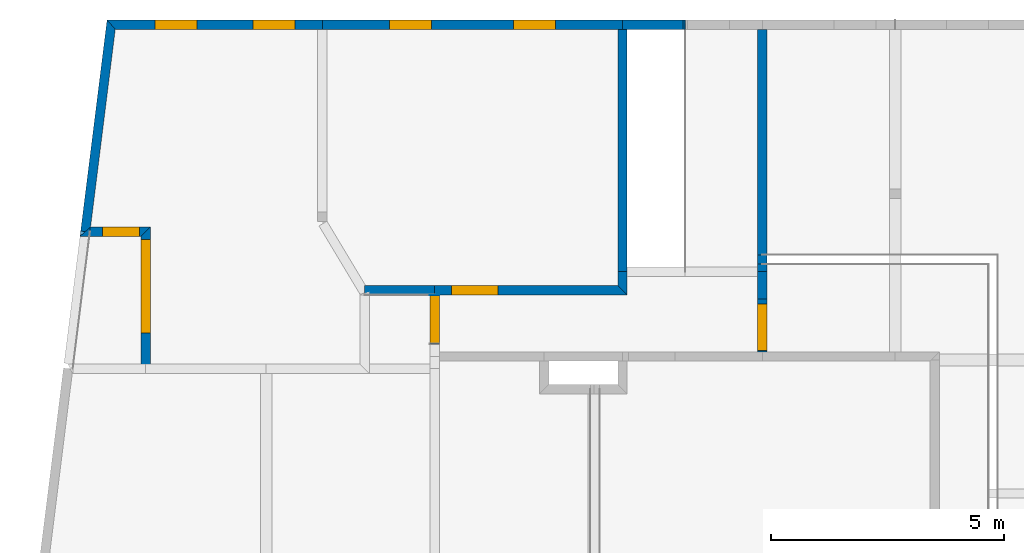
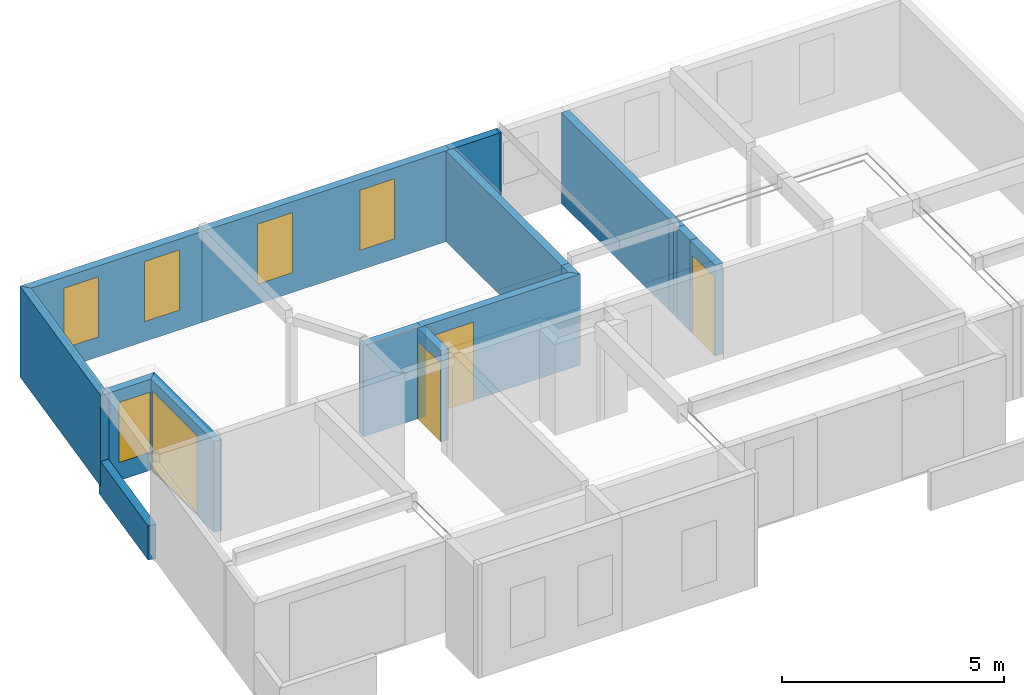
# One storey, part 6 of 8: 20 walls, 6 windows, 3 doors, 9 openings.
"""IFC2X3 building model written with IfcOpenShell, lengths in metres."""

from ifc_helpers import new_model, si_unit, direction, frame, origin_with_axes, origin_2d, place, context, subcontext, project, spatial, polyline, rectangle, outline, extrude, material, layer, layer_set, layer_usage, type_object, element, fill, save


model = new_model("IFC2X3")

# Units and contexts
model_context = context("Model", 3, precision=0.0001, world=origin_with_axes(), true_north=direction((0.0, 1.0)))
plan_context = context("Plan", 2, precision=0.0001, world=origin_with_axes(), true_north=direction((0.0, 1.0)))
body_context = subcontext(model_context, "Body", "Model", "MODEL_VIEW")
ifc_project = project(units=[si_unit("MASSUNIT", "GRAM", prefix="KILO"), si_unit("AREAUNIT", "SQUARE_METRE"), si_unit("LENGTHUNIT", "METRE"), si_unit("VOLUMEUNIT", "CUBIC_METRE")], contexts=[plan_context, model_context])

# Site, building, storey
site_placement = place(None, origin_with_axes())
site = spatial("IfcSite", under=ifc_project, at=site_placement, Name="$", CompositionType="ELEMENT")
building_placement = place(site_placement, origin_with_axes())
building = spatial("IfcBuilding", under=site, at=building_placement, Name="Classeur ENS Ensemble", CompositionType="ELEMENT")
storey_placement = place(building_placement, frame((-20.30778888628, -1.812671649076, 3.3), z_axis=(0.0, 0.0, 1.0), x_axis=(1.0, 0.0, 0.0)))
storey = spatial("IfcBuildingStorey", under=building, at=storey_placement, Name="002 R+1", CompositionType="ELEMENT", Elevation=3.3)

# Wall, openings, windows
ifc_material_1 = material(Name="mur BBM 20 cm")
ifc_layer_1 = layer(ifc_material_1, 0.2000000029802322)
ifc_layer_set_1 = layer_set([ifc_layer_1], Name="mur BBM 20 cm+")
ifc_layer_usage_1 = layer_usage(ifc_layer_set_1, "AXIS2", "POSITIVE", -0.1000000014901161)
wall_type = type_object("IfcWallType", PredefinedType="STANDARD")
wall_1_placement = place(storey_placement, frame((20.41380675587, 1.692674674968, 0.0), z_axis=(0.0, 0.0, 1.0), x_axis=(1.0, 0.0, 0.0)))
wall_1 = element("IfcWall", 1, at=wall_1_placement, inside=storey, type_object=wall_type, material=ifc_layer_usage_1, Name="mur BBM 20 cm", context=body_context, shape_type="SweptSolid", held_by="IfcProductRepresentation", body=[
    extrude(outline(polyline([(-0.08826448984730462, 0.1000000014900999), (-0.08826448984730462, 0.1000000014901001), (-0.08826448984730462, 0.1000000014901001), (4.529589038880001, 0.1000000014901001), (4.529589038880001, 0.1000000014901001), (4.529589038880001, 0.1000000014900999), (4.529589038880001, -0.1000000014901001), (4.529589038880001, -0.1000000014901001), (4.529589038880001, -0.1000000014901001), (0.08826448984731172, -0.1000000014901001), (0.08826448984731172, -0.1000000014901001), (0.08826448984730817, -0.1000000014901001), (-0.08826448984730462, 0.1000000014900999)])), origin_with_axes(), (0.0, 0.0, 1.0), 2.5),
])
opening_1_placement = place(wall_1_placement, frame((1.390263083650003, 0.1000000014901, 0.5500000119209), z_axis=(0.0, 0.0, 1.0), x_axis=(1.0, 0.0, 0.0)))
opening_1 = element("IfcOpeningElement", 2, at=opening_1_placement, cuts=wall_1, Name="BL 90 x 165", context=body_context, shape_type="SweptSolid", held_by="IfcProductRepresentation", body=[
    extrude(rectangle(XDim=0.8999999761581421, YDim=1.649999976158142, at=origin_2d()), frame((0.0, 0.0, 0.824999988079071), z_axis=(0.0, -1.0, 0.0), x_axis=(1.0, 0.0, 0.0)), (0.0, 0.0, 1.0), 0.2000000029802),
])
opening_2_placement = place(wall_1_placement, frame((3.488735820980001, 0.1000000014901, 0.5500000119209), z_axis=(0.0, 0.0, 1.0), x_axis=(1.0, 0.0, 0.0)))
opening_2 = element("IfcOpeningElement", 3, at=opening_2_placement, cuts=wall_1, Name="BL 90 x 165", context=body_context, shape_type="SweptSolid", held_by="IfcProductRepresentation", body=[
    extrude(rectangle(XDim=0.8999999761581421, YDim=1.649999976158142, at=origin_2d()), frame((0.0, 0.0, 0.824999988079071), z_axis=(0.0, -1.0, 0.0), x_axis=(1.0, 0.0, 0.0)), (0.0, 0.0, 1.0), 0.2000000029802),
])
window_1_placement = place(opening_1_placement, origin_with_axes())
window_1 = element("IfcWindow", 4, at=window_1_placement, inside=storey, Name="BL 90 x 165", OverallHeight=1.649999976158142, OverallWidth=0.8999999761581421, context=body_context, shape_type="SweptSolid", held_by="IfcProductRepresentation", body=[
    extrude(rectangle(XDim=0.8999999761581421, YDim=1.649999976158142, at=origin_2d()), frame((0.0, 0.0, 0.824999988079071), z_axis=(0.0, -1.0, 0.0), x_axis=(1.0, 0.0, 0.0)), (0.0, 0.0, 1.0), 0.2000000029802),
])
fill(opening_1, window_1)
window_2_placement = place(opening_2_placement, origin_with_axes())
window_2 = element("IfcWindow", 5, at=window_2_placement, inside=storey, Name="BL 90 x 165", OverallHeight=1.649999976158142, OverallWidth=0.8999999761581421, context=body_context, shape_type="SweptSolid", held_by="IfcProductRepresentation", body=[
    extrude(rectangle(XDim=0.8999999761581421, YDim=1.649999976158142, at=origin_2d()), frame((0.0, 0.0, 0.824999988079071), z_axis=(0.0, -1.0, 0.0), x_axis=(1.0, 0.0, 0.0)), (0.0, 0.0, 1.0), 0.2000000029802),
])
fill(opening_2, window_2)

# Wall, opening, door
ifc_material_2 = material(Name="voile BA 20 cm")
ifc_layer_2 = layer(ifc_material_2, 0.2000000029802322)
ifc_layer_set_2 = layer_set([ifc_layer_2], Name="voile BA 20 cm+")
ifc_layer_usage_2 = layer_usage(ifc_layer_set_2, "AXIS2", "POSITIVE", -0.1000000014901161)
wall_2_placement = place(storey_placement, frame((34.38339579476, -5.427325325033, 0.0), z_axis=(0.0, 0.0, 1.0), x_axis=(0.0, 1.0, 0.0)))
wall_2 = element("IfcWall", 6, at=wall_2_placement, inside=storey, type_object=wall_type, material=ifc_layer_usage_2, Name="voile BA 20 cm", context=body_context, shape_type="SweptSolid", held_by="IfcProductRepresentation", body=[
    extrude(outline(polyline([(0.1000000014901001, 0.1000000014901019), (0.1000000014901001, 0.1000000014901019), (0.1000000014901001, 0.1000000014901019), (1.236187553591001, 0.1000000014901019), (1.236187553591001, 0.1000000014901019), (1.236187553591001, 0.1000000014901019), (1.236187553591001, -0.1000000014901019), (1.236187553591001, -0.1000000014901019), (1.236187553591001, -0.1000000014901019), (0.1000000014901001, -0.1000000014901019), (0.1000000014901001, -0.1000000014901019), (0.1000000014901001, -0.1000000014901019), (0.1000000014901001, 0.1000000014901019)])), origin_with_axes(), (0.0, 0.0, 1.0), 2.5),
])
opening_3_placement = place(wall_2_placement, frame((0.6252548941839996, 0.1000000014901, 0.0), z_axis=(0.0, 0.0, 1.0), x_axis=(1.0, 0.0, 0.0)))
opening_3 = element("IfcOpeningElement", 7, at=opening_3_placement, cuts=wall_2, Name="PE 93 x 215", context=body_context, shape_type="SweptSolid", held_by="IfcProductRepresentation", body=[
    extrude(rectangle(XDim=1.0, YDim=2.150000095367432, at=origin_2d()), frame((0.0, 0.0, 1.075000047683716), z_axis=(0.0, -1.0, 0.0), x_axis=(1.0, 0.0, 0.0)), (0.0, 0.0, 1.0), 0.2000000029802),
])
door_1_placement = place(opening_3_placement, origin_with_axes())
door_1 = element("IfcDoor", 8, at=door_1_placement, inside=storey, Name="PE 93 x 215", OverallHeight=2.150000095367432, OverallWidth=1.0, context=body_context, shape_type="SweptSolid", held_by="IfcProductRepresentation", body=[
    extrude(rectangle(XDim=1.0, YDim=2.150000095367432, at=origin_2d()), frame((0.0, 0.0, 1.075000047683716), z_axis=(0.0, -1.0, 0.0), x_axis=(1.0, 0.0, 0.0)), (0.0, 0.0, 1.0), 0.2000000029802),
])
fill(opening_3, door_1)

# Walls
ifc_material_3 = material(Name="mur BBM 20 cm")
ifc_layer_3 = layer(ifc_material_3, 0.2000000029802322)
ifc_layer_set_3 = layer_set([ifc_layer_3], Name="mur BBM 20 cm+")
ifc_layer_usage_3 = layer_usage(ifc_layer_set_3, "AXIS2", "POSITIVE", -0.1000000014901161)
wall_3_placement = place(storey_placement, frame((31.38339579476, 1.692674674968, 0.0), z_axis=(0.0, 0.0, 1.0), x_axis=(1.0, 0.0, 0.0)))
element("IfcWall", 9, at=wall_3_placement, inside=storey, type_object=wall_type, material=ifc_layer_usage_3, Name="mur BBM 20 cm", context=body_context, shape_type="SweptSolid", held_by="IfcProductRepresentation", body=[
    extrude(outline(polyline([(0.0, 0.1000000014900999), (0.0, 0.1000000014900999), (0.0, 0.1000000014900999), (1.29999999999, 0.1000000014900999), (1.29999999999, 0.1000000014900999), (1.29999999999, 0.1000000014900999), (1.29999999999, -0.1000000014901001), (1.29999999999, -0.1000000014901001), (1.29999999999, -0.1000000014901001), (0.1000000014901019, -0.1000000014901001), (0.1000000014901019, -0.1000000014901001), (0.0, -0.1000000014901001), (0.0, 0.1000000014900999)])), origin_with_axes(), (0.0, 0.0, 1.0), 2.5),
])
ifc_material_4 = material(Name="voile BA 20 cm")
ifc_layer_4 = layer(ifc_material_4, 0.2000000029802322)
ifc_layer_set_4 = layer_set([ifc_layer_4], Name="voile BA 20 cm+")
ifc_layer_usage_4 = layer_usage(ifc_layer_set_4, "AXIS2", "POSITIVE", -0.1000000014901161)
wall_4_placement = place(storey_placement, frame((34.38339579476, -4.191137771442, 0.0), z_axis=(0.0, 0.0, 1.0), x_axis=(0.0, 0.9999999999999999, 0.0)))
element("IfcWall", 10, at=wall_4_placement, inside=storey, type_object=wall_type, material=ifc_layer_usage_4, Name="voile BA 20 cm", context=body_context, shape_type="SweptSolid", held_by="IfcProductRepresentation", body=[
    extrude(outline(polyline([(0.0, 0.1000000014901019), (0.0, 0.1000000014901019), (0.0, 0.1000000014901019), (0.5838124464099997, 0.1000000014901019), (0.5838124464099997, 0.1000000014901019), (0.5838124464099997, 0.1000000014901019), (0.5838124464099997, -0.1000000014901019), (0.5838124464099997, -0.1000000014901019), (0.5838124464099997, -0.1000000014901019), (0.0, -0.1000000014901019), (0.0, -0.1000000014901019), (0.0, -0.1000000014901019), (0.0, 0.1000000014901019)])), origin_with_axes(), (0.0, 0.0, 1.0), 2.5),
])
ifc_material_5 = material(Name="mur BBM 20 cm")
ifc_layer_5 = layer(ifc_material_5, 0.2000000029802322)
ifc_layer_set_5 = layer_set([ifc_layer_5], Name="mur BBM 20 cm+")
ifc_layer_usage_5 = layer_usage(ifc_layer_set_5, "AXIS2", "POSITIVE", -0.1000000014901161)
wall_5_placement = place(storey_placement, frame((32.68339579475, 1.692674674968, 0.0), z_axis=(0.0, 0.0, 1.0), x_axis=(1.0, 0.0, 0.0)))
element("IfcWall", 11, at=wall_5_placement, inside=storey, type_object=wall_type, material=ifc_layer_usage_5, Name="mur BBM 20 cm", context=body_context, shape_type="SweptSolid", held_by="IfcProductRepresentation", body=[
    extrude(outline(polyline([(0.0, 0.1000000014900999), (0.0, 0.1000000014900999), (0.0, 0.1000000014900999), (0.04257326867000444, 0.1000000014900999), (0.04257326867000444, 0.1000000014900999), (0.04257326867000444, 0.1000000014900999), (0.04257326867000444, -0.1000000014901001), (0.04257326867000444, -0.1000000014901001), (0.04257326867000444, -0.1000000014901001), (0.0, -0.1000000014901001), (0.0, -0.1000000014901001), (0.0, -0.1000000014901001), (0.0, 0.1000000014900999)])), origin_with_axes(), (0.0, 0.0, 1.0), 2.5),
])
ifc_material_6 = material(Name="voile BA 20 cm")
ifc_layer_6 = layer(ifc_material_6, 0.2000000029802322)
ifc_layer_set_6 = layer_set([ifc_layer_6], Name="voile BA 20 cm+")
ifc_layer_usage_6 = layer_usage(ifc_layer_set_6, "AXIS2", "POSITIVE", -0.1000000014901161)
wall_6_placement = place(storey_placement, frame((25.85115831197, -4.007325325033, 0.0), z_axis=(0.0, 0.0, 1.0), x_axis=(1.0, 0.0, 0.0)))
element("IfcWall", 12, at=wall_6_placement, inside=storey, type_object=wall_type, material=ifc_layer_usage_6, Name="voile BA 20 cm", context=body_context, shape_type="SweptSolid", held_by="IfcProductRepresentation", body=[
    extrude(outline(polyline([(0.0, 0.1000000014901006), (0.0, 0.1000000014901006), (0.0, 0.1000000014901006), (1.50223748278, 0.1000000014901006), (1.50223748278, 0.1000000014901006), (1.50223748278, 0.1000000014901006), (1.50223748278, -0.1000000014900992), (1.402237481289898, -0.1000000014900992), (1.402237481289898, -0.1000000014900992), (0.0, -0.1000000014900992), (0.0, -0.1000000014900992), (0.0, -0.1000000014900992), (0.0, 0.1000000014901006)])), origin_with_axes(), (0.0, 0.0, 1.0), 2.5),
])
ifc_material_7 = material(Name="voile BA 20 cm")
ifc_layer_7 = layer(ifc_material_7, 0.2000000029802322)
ifc_layer_set_7 = layer_set([ifc_layer_7], Name="voile BA 20 cm+")
ifc_layer_usage_7 = layer_usage(ifc_layer_set_7, "AXIS2", "POSITIVE", -0.1000000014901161)
wall_7_placement = place(storey_placement, frame((31.38339579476, -4.007325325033, 0.0), z_axis=(0.0, 0.0, 1.0), x_axis=(0.0, 1.0, 0.0)))
element("IfcWall", 13, at=wall_7_placement, inside=storey, type_object=wall_type, material=ifc_layer_usage_7, Name="voile BA 20 cm", context=body_context, shape_type="SweptSolid", held_by="IfcProductRepresentation", body=[
    extrude(outline(polyline([(0.1000000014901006, 0.1000000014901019), (0.1000000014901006, 0.1000000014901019), (0.1000000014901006, 0.1000000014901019), (0.4000000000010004, 0.1000000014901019), (0.4000000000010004, 0.1000000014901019), (0.4000000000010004, 0.1000000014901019), (0.4000000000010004, -0.1000000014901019), (0.4000000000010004, -0.1000000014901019), (0.4000000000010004, -0.1000000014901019), (-0.1000000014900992, -0.1000000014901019), (-0.1000000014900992, -0.1000000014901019), (-0.1000000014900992, -0.1000000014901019), (0.1000000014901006, 0.1000000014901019)])), origin_with_axes(), (0.0, 0.0, 1.0), 2.5),
])

# Wall, opening, door
ifc_material_8 = material(Name="voile BA 20 cm")
ifc_layer_8 = layer(ifc_material_8, 0.2000000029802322)
ifc_layer_set_8 = layer_set([ifc_layer_8], Name="voile BA 20 cm+")
ifc_layer_usage_8 = layer_usage(ifc_layer_set_8, "AXIS2", "POSITIVE", -0.1000000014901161)
wall_8_placement = place(storey_placement, frame((27.35339579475, -5.157325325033, 0.0), z_axis=(0.0, 0.0, 1.0), x_axis=(0.0, 1.0, 0.0)))
wall_8 = element("IfcWall", 14, at=wall_8_placement, inside=storey, type_object=wall_type, material=ifc_layer_usage_8, Name="voile BA 20 cm", context=body_context, shape_type="SweptSolid", held_by="IfcProductRepresentation", body=[
    extrude(outline(polyline([(0.0, 0.1000000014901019), (0.0, 0.1000000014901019), (0.0, 0.1000000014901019), (1.050000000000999, 0.1000000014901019), (1.050000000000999, 0.1000000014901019), (1.050000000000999, 0.1000000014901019), (1.050000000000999, -0.1000000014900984), (1.050000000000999, -0.1000000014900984), (1.050000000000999, -0.1000000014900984), (0.0, -0.1000000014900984), (0.0, -0.1000000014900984), (0.0, -0.1000000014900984), (0.0, 0.1000000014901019)])), origin_with_axes(), (0.0, 0.0, 1.0), 2.5),
])
opening_4_placement = place(wall_8_placement, frame((0.5244508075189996, 0.1000000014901, 0.0), z_axis=(0.0, 0.0, 1.0), x_axis=(1.0, 0.0, 0.0)))
opening_4 = element("IfcOpeningElement", 15, at=opening_4_placement, cuts=wall_8, Name="PE 93 x 215", context=body_context, shape_type="SweptSolid", held_by="IfcProductRepresentation", body=[
    extrude(rectangle(XDim=1.0, YDim=2.150000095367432, at=origin_2d()), frame((0.0, 0.0, 1.075000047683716), z_axis=(0.0, -1.0, 0.0), x_axis=(1.0, 0.0, 0.0)), (0.0, 0.0, 1.0), 0.2000000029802),
])
door_2_placement = place(opening_4_placement, origin_with_axes())
door_2 = element("IfcDoor", 16, at=door_2_placement, inside=storey, Name="PE 93 x 215", OverallHeight=2.150000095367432, OverallWidth=1.0, context=body_context, shape_type="SweptSolid", held_by="IfcProductRepresentation", body=[
    extrude(rectangle(XDim=1.0, YDim=2.150000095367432, at=origin_2d()), frame((0.0, 0.0, 1.075000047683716), z_axis=(0.0, -1.0, 0.0), x_axis=(1.0, 0.0, 0.0)), (0.0, 0.0, 1.0), 0.2000000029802),
])
fill(opening_4, door_2)

# Walls
ifc_material_9 = material(Name="mur BBM 20 cm")
ifc_layer_9 = layer(ifc_material_9, 0.2000000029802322)
ifc_layer_set_9 = layer_set([ifc_layer_9], Name="mur BBM 20 cm+")
ifc_layer_usage_9 = layer_usage(ifc_layer_set_9, "AXIS2", "POSITIVE", -0.1000000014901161)
wall_9_placement = place(storey_placement, frame((19.85811059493, -2.747325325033, 0.0), z_axis=(0.0, 0.0, 1.0), x_axis=(1.0, 0.0, 0.0)))
element("IfcWall", 17, at=wall_9_placement, inside=storey, type_object=wall_type, material=ifc_layer_usage_9, Name="mur BBM 20 cm", context=body_context, shape_type="SweptSolid", held_by="IfcProductRepresentation", body=[
    extrude(outline(polyline([(0.1132958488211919, 0.1000000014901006), (0.1132958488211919, 0.100000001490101), (0.1132958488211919, 0.100000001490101), (0.1007801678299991, 0.1000000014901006), (0.1007801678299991, 0.1000000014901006), (0.1007801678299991, 0.1000000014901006), (0.1007801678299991, -0.1000000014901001), (0.1007801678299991, -0.1000000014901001), (0.1007801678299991, -0.1000000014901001), (-0.1132958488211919, -0.1000000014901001), (-0.1132958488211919, -0.1000000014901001), (-0.1132958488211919, -0.1000000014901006), (0.1132958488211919, 0.1000000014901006)])), origin_with_axes(), (0.0, 0.0, 1.0), 2.5),
])
ifc_material_10 = material(Name="mur BBM 20 cm")
ifc_layer_10 = layer(ifc_material_10, 0.2000000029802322)
ifc_layer_set_10 = layer_set([ifc_layer_10], Name="mur BBM 20 cm+")
ifc_layer_usage_10 = layer_usage(ifc_layer_set_10, "AXIS2", "POSITIVE", -0.1000000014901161)
wall_10_placement = place(storey_placement, frame((19.85811059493, -2.747325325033, 0.0), z_axis=(0.0, 0.0, 1.0), x_axis=(0.1241879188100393, 0.9922587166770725, 0.0)))
element("IfcWall", 18, at=wall_10_placement, inside=storey, type_object=wall_type, material=ifc_layer_usage_10, Name="mur BBM 20 cm", context=body_context, shape_type="SweptSolid", held_by="IfcProductRepresentation", body=[
    extrude(outline(polyline([(-0.1132958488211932, 0.1000000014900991), (-0.1132958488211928, 0.1000000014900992), (-0.1132958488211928, 0.1000000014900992), (4.562903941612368, 0.1000000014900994), (4.562903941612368, 0.1000000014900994), (4.562903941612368, 0.1000000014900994), (4.386374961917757, -0.1000000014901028), (4.386374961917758, -0.1000000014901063), (4.386374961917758, -0.1000000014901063), (0.1132958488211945, -0.100000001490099), (0.1132958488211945, -0.100000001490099), (0.1132958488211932, -0.1000000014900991), (-0.1132958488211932, 0.1000000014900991)])), origin_with_axes(), (0.0, 0.0, 1.0), 2.5),
])

# Wall, opening, window
ifc_material_11 = material(Name="mur BBM 20 cm")
ifc_layer_11 = layer(ifc_material_11, 0.2000000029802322)
ifc_layer_set_11 = layer_set([ifc_layer_11], Name="mur BBM 20 cm+")
ifc_layer_usage_11 = layer_usage(ifc_layer_set_11, "AXIS2", "POSITIVE", -0.1000000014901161)
wall_11_placement = place(storey_placement, frame((21.1533661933, -2.747325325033, 0.0), z_axis=(0.0, 0.0, 1.0), x_axis=(0.0002960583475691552, -0.9999999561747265, 0.0)))
wall_11 = element("IfcWall", 19, at=wall_11_placement, inside=storey, type_object=wall_type, material=ifc_layer_usage_11, Name="mur BBM 20 cm", context=body_context, shape_type="SweptSolid", held_by="IfcProductRepresentation", body=[
    extrude(outline(polyline([(-0.09997040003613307, 0.1000000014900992), (-0.09997040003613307, 0.1000000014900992), (-0.09997040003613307, 0.1000000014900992), (2.94000012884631, 0.1000000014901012), (2.94000012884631, 0.1000000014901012), (2.94000012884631, 0.1000000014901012), (2.94000012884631, -0.1000000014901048), (2.94000012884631, -0.1000000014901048), (2.94000012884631, -0.1000000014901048), (0.09997040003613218, -0.1000000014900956), (0.09997040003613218, -0.1000000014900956), (0.09997040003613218, -0.1000000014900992), (-0.09997040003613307, 0.1000000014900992)])), origin_with_axes(), (0.0, 0.0, 1.0), 2.5),
])
opening_5_placement = place(wall_11_placement, frame((1.16981173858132, 0.1000000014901, 0.05000000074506), z_axis=(0.0, 0.0, 1.0), x_axis=(1.0, 0.0, 0.0)))
opening_5 = element("IfcOpeningElement", 20, at=opening_5_placement, cuts=wall_11, Name="BL 200 x 215", context=body_context, shape_type="SweptSolid", held_by="IfcProductRepresentation", body=[
    extrude(rectangle(XDim=2.0, YDim=2.150000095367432, at=origin_2d()), frame((0.0, 0.0, 1.075000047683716), z_axis=(0.0, -1.0, 0.0), x_axis=(1.0, 0.0, 0.0)), (0.0, 0.0, 1.0), 0.2000000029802),
])
window_3_placement = place(opening_5_placement, origin_with_axes())
window_3 = element("IfcWindow", 21, at=window_3_placement, inside=storey, Name="BL 200 x 215", OverallHeight=2.150000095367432, OverallWidth=2.0, context=body_context, shape_type="SweptSolid", held_by="IfcProductRepresentation", body=[
    extrude(rectangle(XDim=2.0, YDim=2.150000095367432, at=origin_2d()), frame((0.0, 0.0, 1.075000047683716), z_axis=(0.0, -1.0, 0.0), x_axis=(1.0, 0.0, 0.0)), (0.0, 0.0, 1.0), 0.2000000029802),
])
fill(opening_5, window_3)

# Wall
ifc_material_12 = material(Name="mur BBM 20 cm")
ifc_layer_12 = layer(ifc_material_12, 0.2000000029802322)
ifc_layer_set_12 = layer_set([ifc_layer_12], Name="mur BBM 20 cm+")
ifc_layer_usage_12 = layer_usage(ifc_layer_set_12, "AXIS2", "POSITIVE", -0.1000000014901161)
wall_12_placement = place(storey_placement, frame((19.50361371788, -5.579747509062, -0.25), z_axis=(0.0, 0.0, 1.0), x_axis=(0.1242218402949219, 0.9922544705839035, 0.0)))
element("IfcWall", 22, at=wall_12_placement, inside=storey, type_object=wall_type, material=ifc_layer_usage_12, Name="mur BBM 20 cm", context=body_context, shape_type="SweptSolid", held_by="IfcProductRepresentation", body=[
    extrude(outline(polyline([(3.729655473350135e-16, 0.1000000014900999), (3.729655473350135e-16, 0.1000000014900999), (3.729655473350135e-16, 0.1000000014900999), (2.854532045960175, 0.1000000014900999), (2.854532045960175, 0.1000000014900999), (2.854532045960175, 0.1000000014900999), (2.854532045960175, -0.1000000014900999), (2.854532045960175, -0.1000000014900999), (2.854532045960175, -0.1000000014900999), (-3.729655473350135e-16, -0.1000000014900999), (-3.729655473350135e-16, -0.1000000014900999), (-3.729655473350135e-16, -0.1000000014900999), (3.729655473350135e-16, 0.1000000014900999)])), origin_with_axes(), (0.0, 0.0, 1.0), 0.9399999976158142),
])

# Wall, opening, window
ifc_material_13 = material(Name="mur BBM 20 cm")
ifc_layer_13 = layer(ifc_material_13, 0.2000000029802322)
ifc_layer_set_13 = layer_set([ifc_layer_13], Name="mur BBM 20 cm+")
ifc_layer_usage_13 = layer_usage(ifc_layer_set_13, "AXIS2", "POSITIVE", -0.1000000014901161)
wall_13_placement = place(storey_placement, frame((19.95889076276, -2.747325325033, 0.0), z_axis=(0.0, 0.0, 1.0), x_axis=(1.0, 0.0, 0.0)))
wall_13 = element("IfcWall", 23, at=wall_13_placement, inside=storey, type_object=wall_type, material=ifc_layer_usage_13, Name="mur BBM 20 cm", context=body_context, shape_type="SweptSolid", held_by="IfcProductRepresentation", body=[
    extrude(outline(polyline([(0.0, 0.1000000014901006), (0.0, 0.1000000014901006), (0.0, 0.1000000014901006), (1.294445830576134, 0.100000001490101), (1.294445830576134, 0.100000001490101), (1.294445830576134, 0.100000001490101), (1.094505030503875, -0.1000000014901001), (1.094505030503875, -0.1000000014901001), (1.094505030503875, -0.1000000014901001), (0.0, -0.1000000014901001), (0.0, -0.1000000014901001), (0.0, -0.1000000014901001), (0.0, 0.1000000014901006)])), origin_with_axes(), (0.0, 0.0, 1.0), 2.5),
])
opening_6_placement = place(wall_13_placement, frame((0.6643855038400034, 0.1000000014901, 0.5), z_axis=(0.0, 0.0, 1.0), x_axis=(1.0, 0.0, 0.0)))
opening_6 = element("IfcOpeningElement", 24, at=opening_6_placement, cuts=wall_13, Name="BL 80 x 165", context=body_context, shape_type="SweptSolid", held_by="IfcProductRepresentation", body=[
    extrude(rectangle(XDim=0.800000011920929, YDim=1.649999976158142, at=origin_2d()), frame((0.0, 0.0, 0.824999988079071), z_axis=(0.0, -1.0, 0.0), x_axis=(1.0, 0.0, 0.0)), (0.0, 0.0, 1.0), 0.2000000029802),
])
window_4_placement = place(opening_6_placement, origin_with_axes())
window_4 = element("IfcWindow", 25, at=window_4_placement, inside=storey, Name="BL 80 x 165", OverallHeight=1.649999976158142, OverallWidth=0.800000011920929, context=body_context, shape_type="SweptSolid", held_by="IfcProductRepresentation", body=[
    extrude(rectangle(XDim=0.800000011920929, YDim=1.649999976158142, at=origin_2d()), frame((0.0, 0.0, 0.824999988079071), z_axis=(0.0, -1.0, 0.0), x_axis=(1.0, 0.0, 0.0)), (0.0, 0.0, 1.0), 0.2000000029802),
])
fill(opening_6, window_4)

# Wall
ifc_material_14 = material(Name="voile BA 20 cm")
ifc_layer_14 = layer(ifc_material_14, 0.2000000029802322)
ifc_layer_set_14 = layer_set([ifc_layer_14], Name="voile BA 20 cm+")
ifc_layer_usage_14 = layer_usage(ifc_layer_set_14, "AXIS2", "POSITIVE", -0.1000000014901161)
wall_14_placement = place(storey_placement, frame((34.38339579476, -3.44736866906, 0.0), z_axis=(0.0, 0.0, 1.0), x_axis=(0.0, 1.0, 0.0)))
element("IfcWall", 26, at=wall_14_placement, inside=storey, type_object=wall_type, material=ifc_layer_usage_14, Name="voile BA 20 cm", context=body_context, shape_type="SweptSolid", held_by="IfcProductRepresentation", body=[
    extrude(outline(polyline([(0.0, 0.1000000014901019), (0.0, 0.1000000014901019), (0.0, 0.1000000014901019), (0.2000000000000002, 0.1000000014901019), (0.2000000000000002, 0.1000000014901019), (0.2000000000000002, 0.1000000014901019), (0.2000000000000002, -0.1000000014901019), (0.2000000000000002, -0.1000000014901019), (0.2000000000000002, -0.1000000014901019), (0.0, -0.1000000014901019), (0.0, -0.1000000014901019), (0.0, -0.1000000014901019), (0.0, 0.1000000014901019)])), origin_with_axes(), (0.0, 0.0, 1.0), 2.5),
])

# Wall, openings, windows
ifc_material_15 = material(Name="mur BBM 20 cm")
ifc_layer_15 = layer(ifc_material_15, 0.2000000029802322)
ifc_layer_set_15 = layer_set([ifc_layer_15], Name="mur BBM 20 cm+")
ifc_layer_usage_15 = layer_usage(ifc_layer_set_15, "AXIS2", "POSITIVE", -0.1000000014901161)
wall_15_placement = place(storey_placement, frame((24.94339579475, 1.692674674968, 0.0), z_axis=(0.0, 0.0, 1.0), x_axis=(0.9999999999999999, 0.0, 0.0)))
wall_15 = element("IfcWall", 27, at=wall_15_placement, inside=storey, type_object=wall_type, material=ifc_layer_usage_15, Name="mur BBM 20 cm", context=body_context, shape_type="SweptSolid", held_by="IfcProductRepresentation", body=[
    extrude(outline(polyline([(0.0, 0.1000000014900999), (0.0, 0.1000000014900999), (0.0, 0.1000000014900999), (6.44000000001, 0.1000000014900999), (6.44000000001, 0.1000000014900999), (6.44000000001, 0.1000000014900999), (6.44000000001, -0.1000000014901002), (6.339999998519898, -0.1000000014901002), (6.339999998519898, -0.1000000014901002), (0.0, -0.1000000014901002), (0.0, -0.1000000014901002), (0.0, -0.1000000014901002), (0.0, 0.1000000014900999)])), origin_with_axes(), (0.0, 0.0, 1.0), 2.5),
])
opening_7_placement = place(wall_15_placement, frame((1.896140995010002, 0.1000000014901, 0.5500000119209), z_axis=(0.0, 0.0, 1.0), x_axis=(1.0, 0.0, 0.0)))
opening_7 = element("IfcOpeningElement", 28, at=opening_7_placement, cuts=wall_15, Name="BL 90 x 165", context=body_context, shape_type="SweptSolid", held_by="IfcProductRepresentation", body=[
    extrude(rectangle(XDim=0.8999999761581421, YDim=1.649999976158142, at=origin_2d()), frame((0.0, 0.0, 0.824999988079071), z_axis=(0.0, -1.0, 0.0), x_axis=(1.0, 0.0, 0.0)), (0.0, 0.0, 1.0), 0.2000000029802),
])
opening_8_placement = place(wall_15_placement, frame((4.54856490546, 0.1000000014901, 0.5500000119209), z_axis=(0.0, 0.0, 1.0), x_axis=(1.0, 0.0, 0.0)))
opening_8 = element("IfcOpeningElement", 29, at=opening_8_placement, cuts=wall_15, Name="BL 90 x 165", context=body_context, shape_type="SweptSolid", held_by="IfcProductRepresentation", body=[
    extrude(rectangle(XDim=0.8999999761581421, YDim=1.649999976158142, at=origin_2d()), frame((0.0, 0.0, 0.824999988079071), z_axis=(0.0, -1.0, 0.0), x_axis=(1.0, 0.0, 0.0)), (0.0, 0.0, 1.0), 0.2000000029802),
])
window_5_placement = place(opening_7_placement, origin_with_axes())
window_5 = element("IfcWindow", 30, at=window_5_placement, inside=storey, Name="BL 90 x 165", OverallHeight=1.649999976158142, OverallWidth=0.8999999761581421, context=body_context, shape_type="SweptSolid", held_by="IfcProductRepresentation", body=[
    extrude(rectangle(XDim=0.8999999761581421, YDim=1.649999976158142, at=origin_2d()), frame((0.0, 0.0, 0.824999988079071), z_axis=(0.0, -1.0, 0.0), x_axis=(1.0, 0.0, 0.0)), (0.0, 0.0, 1.0), 0.2000000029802),
])
fill(opening_7, window_5)
window_6_placement = place(opening_8_placement, origin_with_axes())
window_6 = element("IfcWindow", 31, at=window_6_placement, inside=storey, Name="BL 90 x 165", OverallHeight=1.649999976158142, OverallWidth=0.8999999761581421, context=body_context, shape_type="SweptSolid", held_by="IfcProductRepresentation", body=[
    extrude(rectangle(XDim=0.8999999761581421, YDim=1.649999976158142, at=origin_2d()), frame((0.0, 0.0, 0.824999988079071), z_axis=(0.0, -1.0, 0.0), x_axis=(1.0, 0.0, 0.0)), (0.0, 0.0, 1.0), 0.2000000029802),
])
fill(opening_8, window_6)

# Walls
ifc_material_16 = material(Name="voile BA 20 cm")
ifc_layer_16 = layer(ifc_material_16, 0.2000000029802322)
ifc_layer_set_16 = layer_set([ifc_layer_16], Name="voile BA 20 cm+")
ifc_layer_usage_16 = layer_usage(ifc_layer_set_16, "AXIS2", "POSITIVE", -0.1000000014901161)
wall_16_placement = place(storey_placement, frame((34.38339579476, -3.24736866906, 0.0), z_axis=(0.0, 0.0, 1.0), x_axis=(0.0, 1.0, 0.0)))
element("IfcWall", 32, at=wall_16_placement, inside=storey, type_object=wall_type, material=ifc_layer_usage_16, Name="voile BA 20 cm", context=body_context, shape_type="SweptSolid", held_by="IfcProductRepresentation", body=[
    extrude(outline(polyline([(0.0, 0.1000000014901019), (0.0, 0.1000000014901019), (0.0, 0.1000000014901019), (4.8400433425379, 0.1000000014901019), (4.8400433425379, 0.1000000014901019), (4.8400433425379, 0.1000000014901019), (4.8400433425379, -0.1000000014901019), (4.8400433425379, -0.1000000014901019), (4.8400433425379, -0.1000000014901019), (0.0, -0.1000000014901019), (0.0, -0.1000000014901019), (0.0, -0.1000000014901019), (0.0, 0.1000000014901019)])), origin_with_axes(), (0.0, 0.0, 1.0), 2.5),
])
ifc_material_17 = material(Name="voile BA 20 cm")
ifc_layer_17 = layer(ifc_material_17, 0.2000000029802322)
ifc_layer_set_17 = layer_set([ifc_layer_17], Name="voile BA 20 cm+")
ifc_layer_usage_17 = layer_usage(ifc_layer_set_17, "AXIS2", "POSITIVE", -0.1000000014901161)
wall_17_placement = place(storey_placement, frame((31.38339579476, -3.607325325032, 0.0), z_axis=(0.0, 0.0, 1.0), x_axis=(0.0, 1.0, 0.0)))
element("IfcWall", 33, at=wall_17_placement, inside=storey, type_object=wall_type, material=ifc_layer_usage_17, Name="voile BA 20 cm", context=body_context, shape_type="SweptSolid", held_by="IfcProductRepresentation", body=[
    extrude(outline(polyline([(0.0, 0.1000000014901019), (0.0, 0.1000000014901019), (0.0, 0.1000000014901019), (5.1999999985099, 0.1000000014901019), (5.1999999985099, 0.1000000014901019), (5.1999999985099, 0.1000000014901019), (5.1999999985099, -0.1000000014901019), (5.1999999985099, -0.1000000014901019), (5.1999999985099, -0.1000000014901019), (0.0, -0.1000000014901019), (0.0, -0.1000000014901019), (0.0, -0.1000000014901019), (0.0, 0.1000000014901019)])), origin_with_axes(), (0.0, 0.0, 1.0), 2.5),
])
ifc_material_18 = material(Name="voile BA 20 cm")
ifc_layer_18 = layer(ifc_material_18, 0.2000000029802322)
ifc_layer_set_18 = layer_set([ifc_layer_18], Name="voile BA 20 cm+")
ifc_layer_usage_18 = layer_usage(ifc_layer_set_18, "AXIS2", "POSITIVE", -0.1000000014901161)
wall_18_placement = place(storey_placement, frame((34.38339579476, -3.607325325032, 0.0), z_axis=(0.0, 0.0, 1.0), x_axis=(0.0, 1.0, 0.0)))
element("IfcWall", 34, at=wall_18_placement, inside=storey, type_object=wall_type, material=ifc_layer_usage_18, Name="voile BA 20 cm", context=body_context, shape_type="SweptSolid", held_by="IfcProductRepresentation", body=[
    extrude(outline(polyline([(0.0, 0.1000000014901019), (0.0, 0.1000000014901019), (0.0, 0.1000000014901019), (0.159956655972, 0.1000000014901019), (0.159956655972, 0.1000000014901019), (0.159956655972, 0.1000000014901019), (0.159956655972, -0.1000000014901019), (0.159956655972, -0.1000000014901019), (0.159956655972, -0.1000000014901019), (0.0, -0.1000000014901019), (0.0, -0.1000000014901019), (0.0, -0.1000000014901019), (0.0, 0.1000000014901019)])), origin_with_axes(), (0.0, 0.0, 1.0), 2.5),
])

# Wall, opening, door
ifc_material_19 = material(Name="voile BA 20 cm")
ifc_layer_19 = layer(ifc_material_19, 0.2000000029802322)
ifc_layer_set_19 = layer_set([ifc_layer_19], Name="voile BA 20 cm+")
ifc_layer_usage_19 = layer_usage(ifc_layer_set_19, "AXIS2", "POSITIVE", -0.1000000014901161)
wall_19_placement = place(storey_placement, frame((27.35339579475, -4.007325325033, 0.0), z_axis=(0.0, 0.0, 1.0), x_axis=(1.0, 0.0, 0.0)))
wall_19 = element("IfcWall", 35, at=wall_19_placement, inside=storey, type_object=wall_type, material=ifc_layer_usage_19, Name="voile BA 20 cm", context=body_context, shape_type="SweptSolid", held_by="IfcProductRepresentation", body=[
    extrude(outline(polyline([(0.0, 0.1000000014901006), (0.0, 0.1000000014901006), (0.0, 0.1000000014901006), (3.929999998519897, 0.1000000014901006), (3.929999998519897, 0.1000000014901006), (3.929999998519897, 0.1000000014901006), (4.1300000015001, -0.1000000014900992), (4.1300000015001, -0.1000000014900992), (4.1300000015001, -0.1000000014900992), (0.1000000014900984, -0.1000000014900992), (0.1000000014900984, -0.1000000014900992), (0.0, -0.1000000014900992), (0.0, 0.1000000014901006)])), origin_with_axes(), (0.0, 0.0, 1.0), 2.5),
])
opening_9_placement = place(wall_19_placement, frame((0.8591239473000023, 0.1000000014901, 0.0), z_axis=(0.0, 0.0, 1.0), x_axis=(1.0, 0.0, 0.0)))
opening_9 = element("IfcOpeningElement", 36, at=opening_9_placement, cuts=wall_19, Name="PE 93 x 215", context=body_context, shape_type="SweptSolid", held_by="IfcProductRepresentation", body=[
    extrude(rectangle(XDim=1.0, YDim=2.150000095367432, at=origin_2d()), frame((0.0, 0.0, 1.075000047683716), z_axis=(0.0, -1.0, 0.0), x_axis=(1.0, 0.0, 0.0)), (0.0, 0.0, 1.0), 0.2000000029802),
])
door_3_placement = place(opening_9_placement, origin_with_axes())
door_3 = element("IfcDoor", 37, at=door_3_placement, inside=storey, Name="PE 93 x 215", OverallHeight=2.150000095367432, OverallWidth=1.0, context=body_context, shape_type="SweptSolid", held_by="IfcProductRepresentation", body=[
    extrude(rectangle(XDim=1.0, YDim=2.150000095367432, at=origin_2d()), frame((0.0, 0.0, 1.075000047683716), z_axis=(0.0, -1.0, 0.0), x_axis=(1.0, 0.0, 0.0)), (0.0, 0.0, 1.0), 0.2000000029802),
])
fill(opening_9, door_3)

# Wall
ifc_material_20 = material(Name="mur BBM 20 cm")
ifc_layer_20 = layer(ifc_material_20, 0.2000000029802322)
ifc_layer_set_20 = layer_set([ifc_layer_20], Name="mur BBM 20 cm+")
ifc_layer_usage_20 = layer_usage(ifc_layer_set_20, "AXIS2", "POSITIVE", -0.1000000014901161)
wall_20_placement = place(storey_placement, frame((27.35339579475, -4.107325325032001, 0.0), z_axis=(0.0, 0.0, 1.0), x_axis=(0.0, 1.0, 0.0)))
element("IfcWall", 38, at=wall_20_placement, inside=storey, type_object=wall_type, material=ifc_layer_usage_20, Name="mur BBM 20 cm", context=body_context, shape_type="SweptSolid", held_by="IfcProductRepresentation", body=[
    extrude(outline(polyline([(0.0, 0.1000000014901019), (0.0, 0.1000000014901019), (0.0, 0.1000000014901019), (-1.491098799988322e-09, 0.1000000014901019), (-1.491098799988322e-09, 0.1000000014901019), (-1.491098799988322e-09, 0.1000000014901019), (-1.491098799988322e-09, -0.1000000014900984), (-1.491098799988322e-09, -0.1000000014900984), (-1.491098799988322e-09, -0.1000000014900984), (0.0, -0.1000000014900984), (0.0, -0.1000000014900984), (0.0, -0.1000000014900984), (0.0, 0.1000000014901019)])), origin_with_axes(), (0.0, 0.0, 1.0), 2.5),
])

save(model, "model.ifc")
